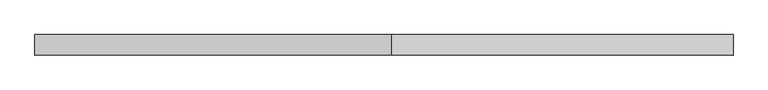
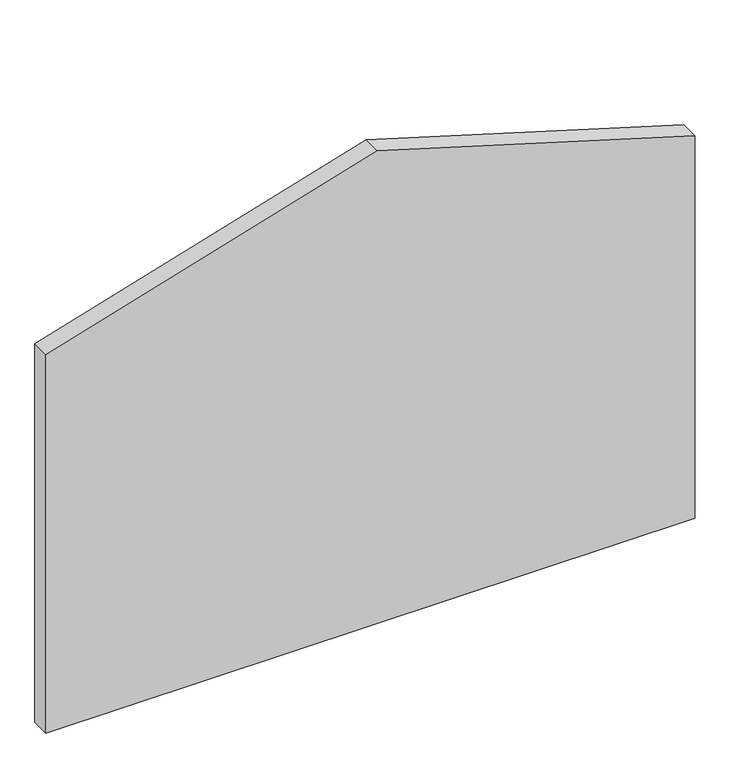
"""IFC4 building model written with IfcOpenShell, lengths in millimetres: plate geometry, Panneau système : Vitre 4cm."""

from ifc_helpers import new_model, si_unit, frame, origin, place, context, project, spatial, polyline, outline, extrude, source, transform, mapped, element, save


def plate_7623dc67(model_context):
    return source(origin(), model_context, "Body", "SweptSolid", [
        extrude(outline(polyline([(0.0, -678.4583333), (0.0, 678.4583333), (845.5156251, 678.4583333), (1044.640234, 14.7096369), (836.689843, -678.4583333), (0.0, -678.4583333)])), frame((0.0, -20.0, 0.0), z_axis=(0.0, 1.0, 0.0), x_axis=(0.0, 0.0, 1.0)), (0.0, 0.0, 1.0), 40.0),
    ])


if __name__ == "__main__":
    model = new_model("IFC4")
    model_context = context("Model", 3, world=origin())
    ifc_project = project(units=[si_unit("LENGTHUNIT", "METRE", prefix="MILLI")], contexts=[model_context])
    site = spatial("IfcSite", under=ifc_project)
    building = spatial("IfcBuilding", under=site)
    placement = place(None, origin())
    plate_shape = plate_7623dc67(model_context)
    element("IfcPlate", 1, ObjectType="Panneau système : Vitre 4cm", at=placement, inside=building, context=model_context, shape_type="MappedRepresentation", body=[
        mapped(plate_shape, transform((0.0, 0.0, 0.0), x_axis=(1.0, 0.0, 0.0), y_axis=(0.0, 1.0, 0.0), z_axis=(0.0, 0.0, 1.0))),
    ])
    save(model, "model.ifc")
